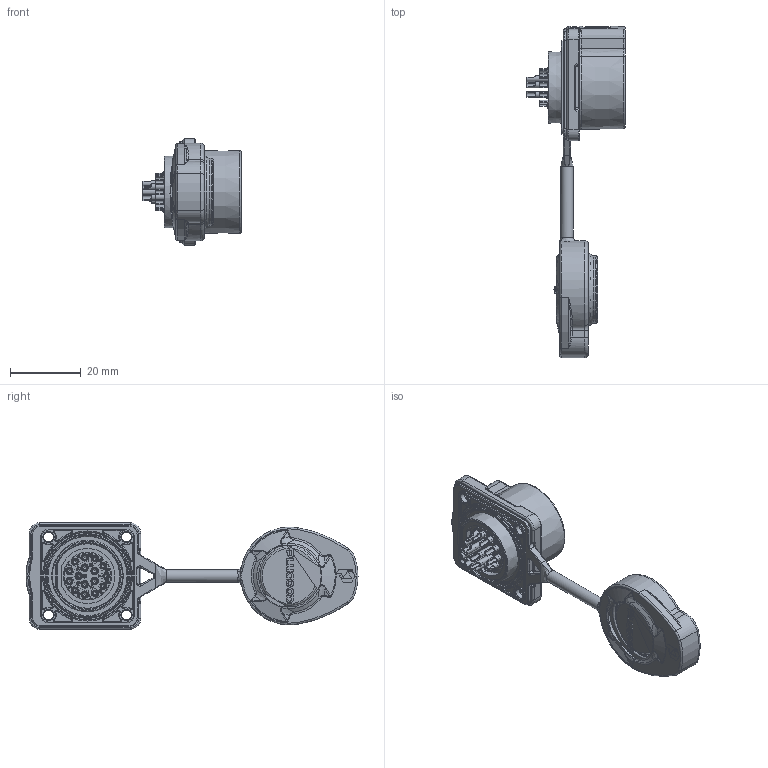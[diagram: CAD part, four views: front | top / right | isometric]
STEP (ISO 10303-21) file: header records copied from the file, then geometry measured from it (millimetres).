
FILE_DESCRIPTION (( 'STEP AP203' ), '1' );
FILE_NAME ('PLG20 16郋侐謂脣釱.STEP', '2025-03-19T12:30:39', ( '' ), ( '' ), 'SwSTEP 2.0', 'SolidWorks 2024', '' );
FILE_SCHEMA (( 'CONFIG_CONTROL_DESIGN' ));
Length unit declared in the file: millimetre
Products named in the file (1): PLG20 16芯四孔插座
Bounding box: 27.7 x 93.64 x 30 mm (x, y, z)
Volume: 12574.8 mm3; surface area: 10677.4 mm2
Topology: 1 solids, 9 shells, 2046 faces, 5109 edges, 3242 vertices
Faces by surface type: plane 762, bspline 517, cylinder 442, torus 228, cone 85, sphere 12
Full cylindrical faces by diameter (mm): 1.061 x1, 1.1 x16, 1.2 x16, 1.65 x16, 1.75 x16, 2.088 x1, 2.1 x5, 2.8 x4, 3.3 x4, 3.5 x1, 6 x4, 13.5 x1, 16.5 x1, 19.1 x1, 19.5 x3, 22.3 x1, 23.5 x1, 25 x1
Entity records: 81256 total; most frequent: CARTESIAN_POINT 37133, ORIENTED_EDGE 9712, DIRECTION 7776, EDGE_CURVE 4856, VERTEX_POINT 3170, AXIS2_PLACEMENT_3D 2789, EDGE_LOOP 2404, LINE 2198
